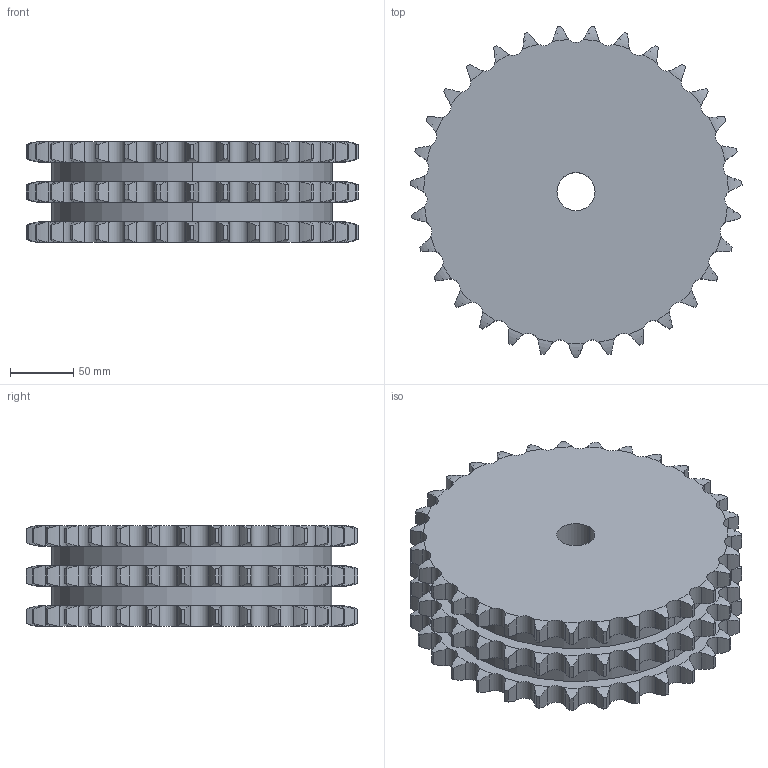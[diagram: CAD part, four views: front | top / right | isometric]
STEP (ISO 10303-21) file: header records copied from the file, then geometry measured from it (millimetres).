
FILE_DESCRIPTION((''),'2;1');
FILE_NAME('500-503-0031_PRT','2021-02-12T',('Brieden'),('Brieden'),'PRO/ENGINEER BY PARAMETRIC TECHNOLOGY CORPORATION, 2010160','PRO/ENGINEER BY PARAMETRIC TECHNOLOGY CORPORATION, 2010160','');
FILE_SCHEMA(('AUTOMOTIVE_DESIGN { 1 0 10303 214 1 1 1 1 }'));
Length unit declared in the file: millimetre
Products named in the file (1): 500-503-0031_PRT
Bounding box: 261.68 x 261.35 x 79.6 mm (x, y, z)
Volume: 3421509.3 mm3; surface area: 213014.6 mm2
Topology: 1 solids, 1 shells, 570 faces, 1692 edges, 1128 vertices
Faces by surface type: cylinder 378, torus 186, plane 6
Entity records: 27750 total; most frequent: CARTESIAN_POINT 8235, ORIENTED_EDGE 3384, DIRECTION 2658, PRESENTATION_STYLE_ASSIGNMENT 1693, STYLED_ITEM 1693, CURVE_STYLE 1692, EDGE_CURVE 1692, AXIS2_PLACEMENT_3D 1140
